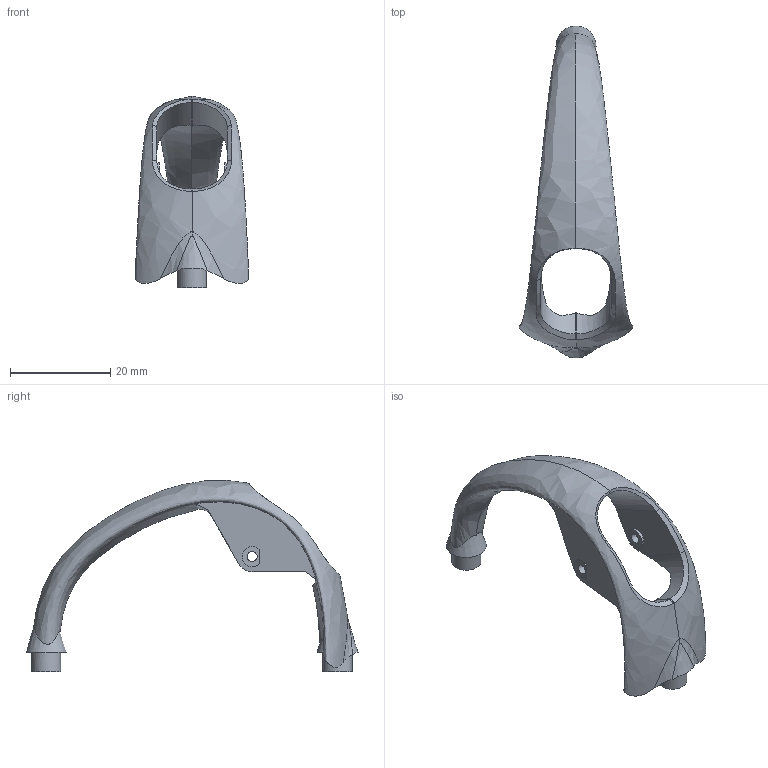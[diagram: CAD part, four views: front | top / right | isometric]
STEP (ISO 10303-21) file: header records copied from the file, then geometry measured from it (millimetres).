
FILE_DESCRIPTION(('FreeCAD Model'),'2;1');
FILE_NAME('Open CASCADE Shape Model','2023-03-07T22:54:21',(''),(''), 'Open CASCADE STEP processor 7.6','FreeCAD','Unknown');
FILE_SCHEMA(('AUTOMOTIVE_DESIGN { 1 0 10303 214 1 1 1 1 }'));
Length unit declared in the file: millimetre
Products named in the file (1): Cut004
Bounding box: 22.61 x 66.08 x 38.06 mm (x, y, z)
Volume: 4905.4 mm3; surface area: 4049.3 mm2
Topology: 1 solids, 1 shells, 59 faces, 160 edges, 109 vertices
Faces by surface type: bspline 20, plane 20, cylinder 16, cone 3
Full cylindrical faces by diameter (mm): 2 x2, 2.8 x2, 4 x2, 5.8 x2
Entity records: 11130 total; most frequent: CARTESIAN_POINT 9777, ORIENTED_EDGE 320, DIRECTION 205, EDGE_CURVE 160, VERTEX_POINT 109, AXIS2_PLACEMENT_3D 87, B_SPLINE_CURVE_WITH_KNOTS 81, FACE_BOUND 71
